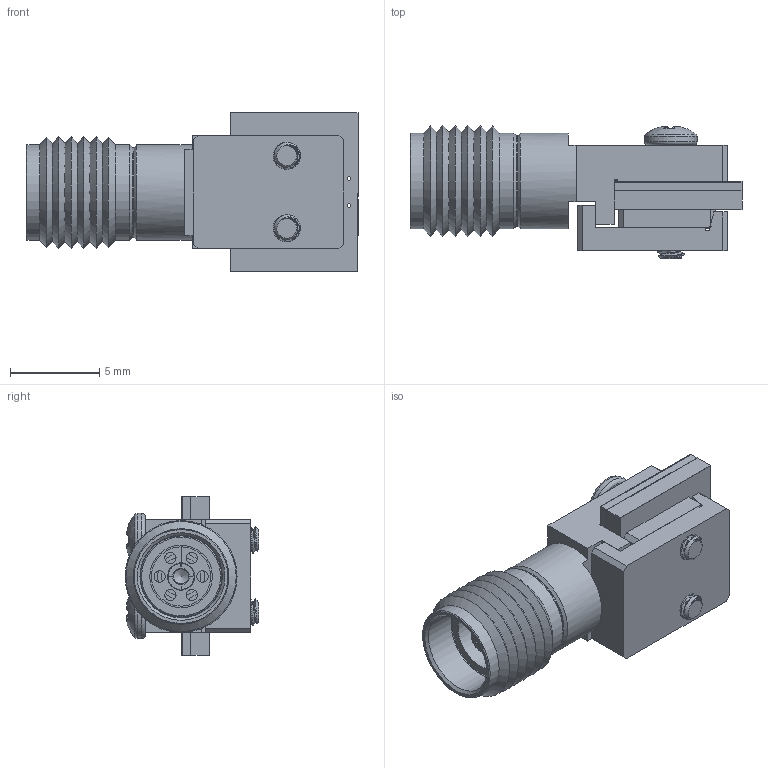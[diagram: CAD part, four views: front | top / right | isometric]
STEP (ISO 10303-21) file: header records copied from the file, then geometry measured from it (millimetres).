
FILE_DESCRIPTION (( 'STEP AP214' ), '1' );
FILE_NAME ('TMB-E5F2-1L1-01.STEP', '2020-09-03T01:45:55', ( '' ), ( '' ), 'SwSTEP 2.0', 'SolidWorks 2019', '' );
FILE_SCHEMA (( 'AUTOMOTIVE_DESIGN' ));
Length unit declared in the file: millimetre
Products named in the file (12): 101-2196-440070D^58-20003-44071G_58-20003-44070G_EL-assy-solderless; 58-20003-44071G^58-20003-44070G_EL-assy-solderless_ﾄｬﾈﾏｨｨ_; plate-solderless; 103-1870-226080A^58-20003-44071G_58-20003-44070G_EL-assy-solderless; 101-2426-440000B^58-20003-44071G_58-20003-44070G_EL-assy-solderless; 58-20003-44070G^EL-assy-solderless_ﾄｬﾈﾏｨｨ_; 102-1416-700000A(2)^58-20003-44071G_58-20003-44070G_EL-assy-solderless; 91772A055_Passivated 18-8 Stainless Steel Pan Head Phillips Screw, 0-80 Thread, 1_4_ Long _ McMaster-Carr_91772A055; plate-solderless-base; CONNECTOR-PCB-EDGE-MOUNT_solderless; TMB-E5F2-1L1-01; 102-1139-700000D^58-20003-44071G_58-20003-44070G_EL-assy-solderless
Assembly tree (12 placements, depth 4):
  TMB-E5F2-1L1-01
    CONNECTOR-PCB-EDGE-MOUNT_solderless
    plate-solderless-base
    91772A055_Passivated 18-8 Stainless Steel Pan Head Phillips Screw, 0-80 Thread, 1_4_ Long _ McMaster-Carr_91772A055  x2
    plate-solderless
    58-20003-44070G^EL-assy-solderless_ﾄｬﾈﾏｨｨ_
      58-20003-44071G^58-20003-44070G_EL-assy-solderless_ﾄｬﾈﾏｨｨ_
        102-1139-700000D^58-20003-44071G_58-20003-44070G_EL-assy-solderless
        101-2196-440070D^58-20003-44071G_58-20003-44070G_EL-assy-solderless
        101-2426-440000B^58-20003-44071G_58-20003-44070G_EL-assy-solderless
        103-1870-226080A^58-20003-44071G_58-20003-44070G_EL-assy-solderless
        102-1416-700000A(2)^58-20003-44071G_58-20003-44070G_EL-assy-solderless
Bounding box: 18.58 x 7.48 x 8.89 mm (x, y, z)
Volume: 483.9 mm3; surface area: 1906.5 mm2
Topology: 16 solids, 16 shells, 577 faces, 1673 edges, 1148 vertices
Faces by surface type: cylinder 322, plane 184, cone 54, torus 9, bspline 6, sphere 2
Full cylindrical faces by diameter (mm): 0.178 x1, 0.203 x150, 0.305 x1, 0.31 x1, 0.57 x1, 0.63 x6, 0.76 x1, 0.95 x1, 0.97 x1, 1 x2, 1.14 x2, 1.19 x1, 1.191 x2, 1.22 x1, 1.311 x2, 1.33 x1, 1.52 x2, 1.575 x2, 1.702 x2, 1.75 x1, 1.778 x1, 2.083 x2, 2.184 x10, 2.19 x1, 2.62 x1, 2.946 x2, 3.06 x1, 3.5 x2, 3.86 x1, 4.49 x1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
Entity records: 17595 total; most frequent: CARTESIAN_POINT 4621, DIRECTION 2470, ORIENTED_EDGE 2078, EDGE_LOOP 1103, AXIS2_PLACEMENT_3D 1053, EDGE_CURVE 1039, VERTEX_POINT 832, FACE_OUTER_BOUND 706
